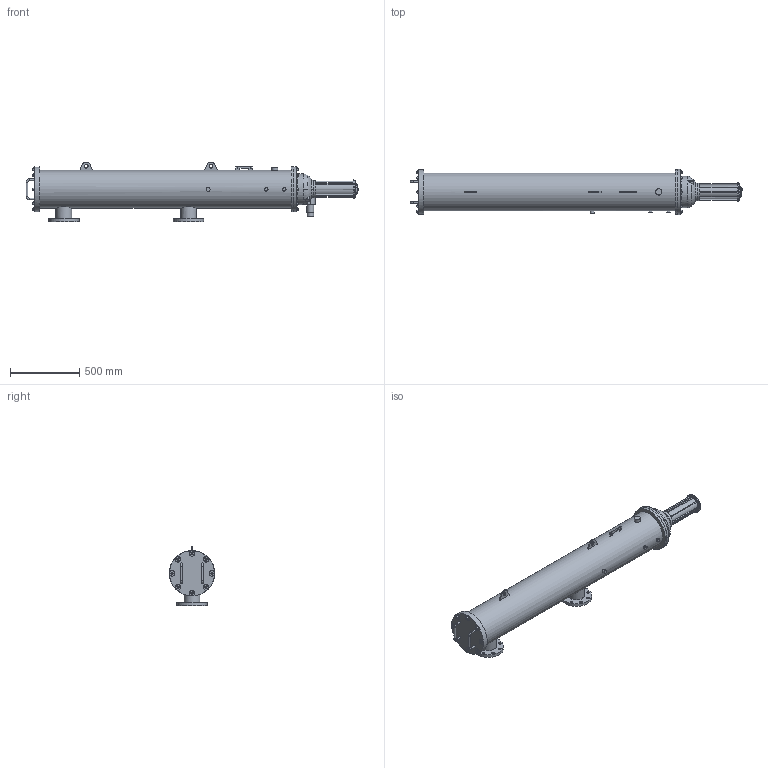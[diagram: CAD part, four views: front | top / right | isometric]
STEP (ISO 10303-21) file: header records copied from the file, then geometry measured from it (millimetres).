
FILE_DESCRIPTION( ( 'Unknown' ), '1' );
FILE_NAME( 'D:/SE/for Itzik/M104 XLP.stp', 'Unknown', ( 'Unknown' ), ( 'Unknown' ), 'XStep 1.0', 'Unknown', ' ' );
FILE_SCHEMA( ( 'automotive_design' ) );
Length unit declared in the file: millimetre
Products named in the file (5): Assem1; M100-6800A_M104-XLP; Flat Face_AS-83011004220000
Bounding box: 2397.3 x 327 x 431.55 mm (x, y, z)
Volume: 245162893.6 mm3; surface area: 4821592.8 mm2
Topology: 9 solids, 11 shells, 1556 faces, 4051 edges, 2663 vertices
Faces by surface type: plane 1014, cylinder 384, bspline 94, cone 34, torus 28, revolution 2
Full cylindrical faces by diameter (mm): 5 x2, 6.322 x48, 6.5 x4, 10.97 x16, 12 x12, 12.7 x32, 14 x2, 16 x16, 18 x24, 25 x4, 26 x4, 28 x2, 40 x32, 45 x2, 47.803 x2, 48.4 x2, 97 x2, 114.3 x4, 116 x3, 126 x2, 127 x2, 220 x3, 226 x2, 273.05 x2, 325 x4, 327 x2
Entity records: 33016 total; most frequent: CARTESIAN_POINT 8964, ORIENTED_EDGE 3632, DIRECTION 3532, EDGE_CURVE 1816, AXIS2_PLACEMENT_3D 1296, VERTEX_POINT 1261, EDGE_LOOP 1043, LINE 939
